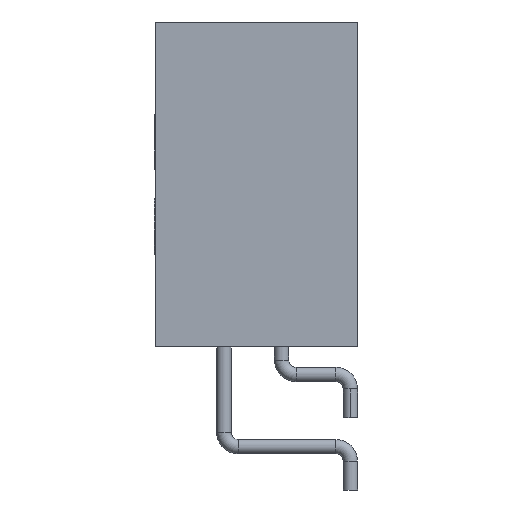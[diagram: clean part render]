
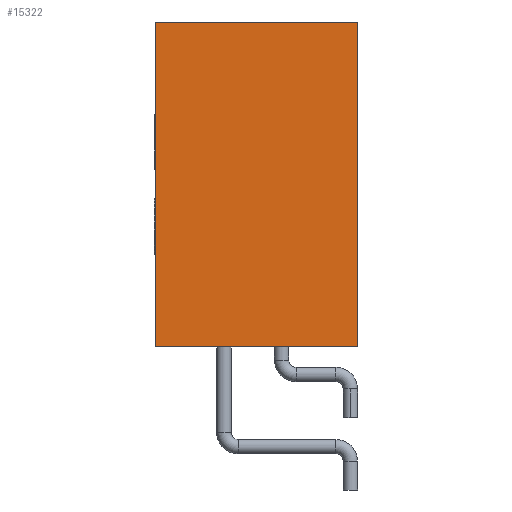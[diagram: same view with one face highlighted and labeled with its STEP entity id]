
A CAD part, left-side view. The second image highlights one B-rep face of the part: STEP entity #15322.
In plain terms, the highlighted planar face has unit normal (-1, 0, 0).
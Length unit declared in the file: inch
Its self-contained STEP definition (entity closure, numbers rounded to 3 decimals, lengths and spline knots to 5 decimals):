
#924 = CARTESIAN_POINT ( 'NONE',  ( -0.225, -0.0775, 0.11 ) ) ;
#2416 = DIRECTION ( 'NONE',  ( 0., -1., 0. ) ) ;
#5497 = LINE ( 'NONE', #9801, #6753 ) ;
#5542 = CARTESIAN_POINT ( 'NONE',  ( -0.225, 0.0625, -0.115 ) ) ;
#5712 = VECTOR ( 'NONE', #13504, 39.37008 ) ;
#6753 = VECTOR ( 'NONE', #7318, 39.37008 ) ;
#7125 = ORIENTED_EDGE ( 'NONE', *, *, #7254, .F. ) ;
#7254 = EDGE_CURVE ( 'NONE', #24906, #7744, #5497, .T. ) ;
#7318 = DIRECTION ( 'NONE',  ( 0., 0., 1. ) ) ;
#7744 = VERTEX_POINT ( 'NONE', #20421 ) ;
#7799 = ORIENTED_EDGE ( 'NONE', *, *, #21132, .T. ) ;
#9801 = CARTESIAN_POINT ( 'NONE',  ( -0.225, 0.0625, -0.115 ) ) ;
#11360 = CARTESIAN_POINT ( 'NONE',  ( -0.225, 0.0625, -0.115 ) ) ;
#12235 = CARTESIAN_POINT ( 'NONE',  ( -0.225, 0.0625, -0.115 ) ) ;
#12444 = CARTESIAN_POINT ( 'NONE',  ( -0.225, 0.0625, 0.11 ) ) ;
#12634 = EDGE_CURVE ( 'NONE', #24906, #13379, #25722, .T. ) ;
#13379 = VERTEX_POINT ( 'NONE', #22792 ) ;
#13504 = DIRECTION ( 'NONE',  ( 0., -1., 0. ) ) ;
#14541 = LINE ( 'NONE', #12444, #23814 ) ;
#14783 = ORIENTED_EDGE ( 'NONE', *, *, #22237, .F. ) ;
#15322 = ADVANCED_FACE ( 'NONE', ( #21018 ), #23090, .T. ) ;
#15878 = VERTEX_POINT ( 'NONE', #924 ) ;
#17164 = VECTOR ( 'NONE', #25393, 39.37008 ) ;
#17228 = DIRECTION ( 'NONE',  ( -1., 0., 0. ) ) ;
#17466 = LINE ( 'NONE', #23320, #17164 ) ;
#18226 = EDGE_LOOP ( 'NONE', ( #14783, #7125, #22901, #7799 ) ) ;
#20421 = CARTESIAN_POINT ( 'NONE',  ( -0.225, 0.0625, 0.11 ) ) ;
#21018 = FACE_OUTER_BOUND ( 'NONE', #18226, .T. ) ;
#21132 = EDGE_CURVE ( 'NONE', #13379, #15878, #17466, .T. ) ;
#22237 = EDGE_CURVE ( 'NONE', #7744, #15878, #14541, .T. ) ;
#22792 = CARTESIAN_POINT ( 'NONE',  ( -0.225, -0.0775, -0.115 ) ) ;
#22901 = ORIENTED_EDGE ( 'NONE', *, *, #12634, .T. ) ;
#23090 = PLANE ( 'NONE',  #23508 ) ;
#23320 = CARTESIAN_POINT ( 'NONE',  ( -0.225, -0.0775, -0.115 ) ) ;
#23508 = AXIS2_PLACEMENT_3D ( 'NONE', #11360, #17228, #25289 ) ;
#23814 = VECTOR ( 'NONE', #2416, 39.37008 ) ;
#24906 = VERTEX_POINT ( 'NONE', #12235 ) ;
#25289 = DIRECTION ( 'NONE',  ( 0., 0., -1. ) ) ;
#25393 = DIRECTION ( 'NONE',  ( 0., 0., 1. ) ) ;
#25722 = LINE ( 'NONE', #5542, #5712 ) ;
